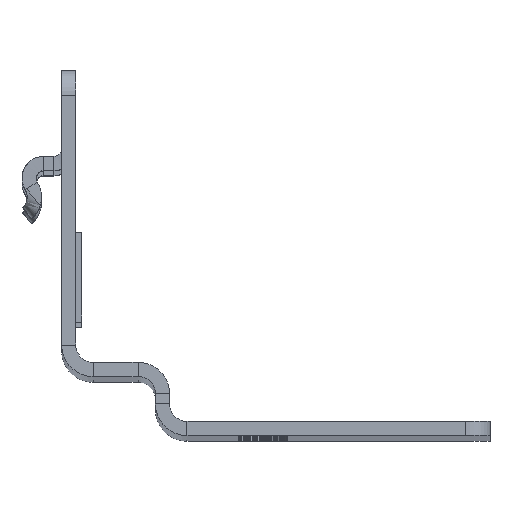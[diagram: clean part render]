
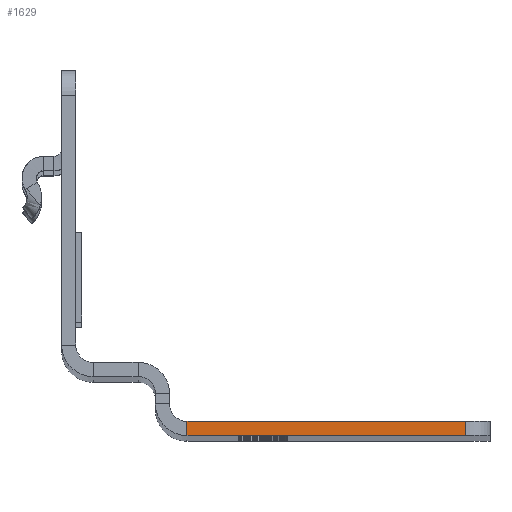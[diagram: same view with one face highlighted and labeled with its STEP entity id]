
A CAD part, top view. The second image highlights one B-rep face of the part: STEP entity #1629.
In plain terms, the highlighted planar face has unit normal (0, 0, 1) as drawn and (-1, 0, 0) by its records, which use the part's own axes.
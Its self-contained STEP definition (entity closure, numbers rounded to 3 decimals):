
#403 = EDGE_CURVE ( 'NONE', #565, #8579, #2932, .T. ) ;
#565 = VERTEX_POINT ( 'NONE', #7584 ) ;
#596 = CARTESIAN_POINT ( 'NONE',  ( -212.5, 0., 43.104 ) ) ;
#719 = ORIENTED_EDGE ( 'NONE', *, *, #403, .F. ) ;
#869 = CARTESIAN_POINT ( 'NONE',  ( -212.5, 1.829, 39.929 ) ) ;
#938 = ORIENTED_EDGE ( 'NONE', *, *, #3188, .T. ) ;
#1629 = ADVANCED_FACE ( 'NONE', ( #4061 ), #2650, .F. ) ;
#1861 = ORIENTED_EDGE ( 'NONE', *, *, #2855, .T. ) ;
#2089 = EDGE_LOOP ( 'NONE', ( #719, #938, #8196, #1861 ) ) ;
#2650 = PLANE ( 'NONE',  #8135 ) ;
#2855 = EDGE_CURVE ( 'NONE', #8172, #8579, #8721, .T. ) ;
#2932 = LINE ( 'NONE', #596, #3167 ) ;
#2959 = LINE ( 'NONE', #7236, #4651 ) ;
#3167 = VECTOR ( 'NONE', #4839, 1000. ) ;
#3188 = EDGE_CURVE ( 'NONE', #565, #7823, #2959, .T. ) ;
#3705 = LINE ( 'NONE', #4760, #5406 ) ;
#3937 = CARTESIAN_POINT ( 'NONE',  ( -212.5, 1.829, 4.064 ) ) ;
#4037 = DIRECTION ( 'NONE',  ( 0., 0., -1. ) ) ;
#4061 = FACE_OUTER_BOUND ( 'NONE', #2089, .T. ) ;
#4071 = DIRECTION ( 'NONE',  ( 0., 0., -1. ) ) ;
#4389 = EDGE_CURVE ( 'NONE', #7823, #8172, #3705, .T. ) ;
#4651 = VECTOR ( 'NONE', #5823, 1000. ) ;
#4760 = CARTESIAN_POINT ( 'NONE',  ( -212.5, 1.829, 43.104 ) ) ;
#4839 = DIRECTION ( 'NONE',  ( 0., 0., -1. ) ) ;
#4864 = CARTESIAN_POINT ( 'NONE',  ( -212.5, 0., 4.064 ) ) ;
#5406 = VECTOR ( 'NONE', #4037, 1000. ) ;
#5823 = DIRECTION ( 'NONE',  ( 0., 1., 0. ) ) ;
#6698 = DIRECTION ( 'NONE',  ( 0., -1., 0. ) ) ;
#7236 = CARTESIAN_POINT ( 'NONE',  ( -212.5, 1.829, 39.929 ) ) ;
#7584 = CARTESIAN_POINT ( 'NONE',  ( -212.5, 0., 39.929 ) ) ;
#7593 = CARTESIAN_POINT ( 'NONE',  ( -212.5, 11.659, -8.026 ) ) ;
#7788 = CARTESIAN_POINT ( 'NONE',  ( -212.5, 1.829, 4.064 ) ) ;
#7823 = VERTEX_POINT ( 'NONE', #869 ) ;
#8135 = AXIS2_PLACEMENT_3D ( 'NONE', #7593, #8308, #4071 ) ;
#8172 = VERTEX_POINT ( 'NONE', #7788 ) ;
#8196 = ORIENTED_EDGE ( 'NONE', *, *, #4389, .T. ) ;
#8308 = DIRECTION ( 'NONE',  ( 1., 0., 0. ) ) ;
#8579 = VERTEX_POINT ( 'NONE', #4864 ) ;
#8721 = LINE ( 'NONE', #3937, #8981 ) ;
#8981 = VECTOR ( 'NONE', #6698, 1000. ) ;
